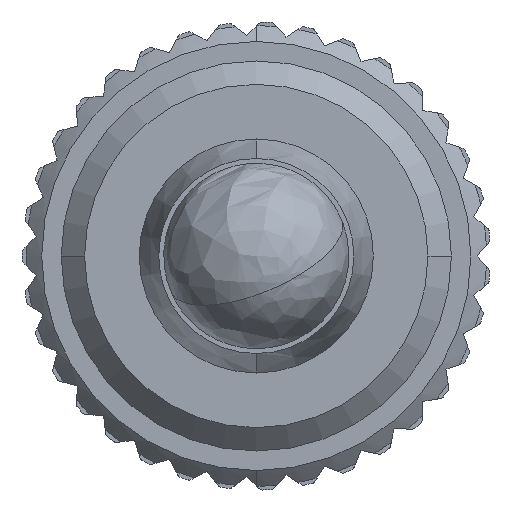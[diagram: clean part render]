
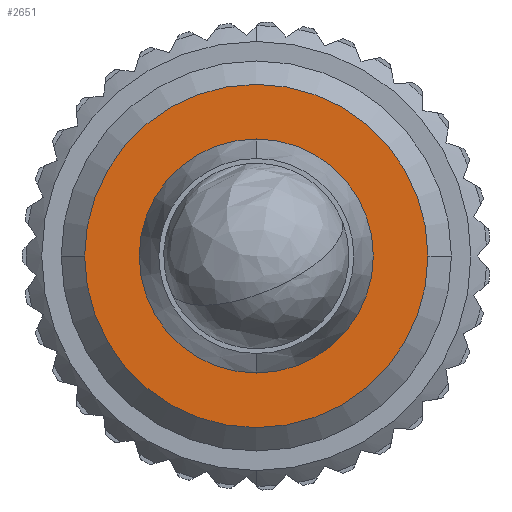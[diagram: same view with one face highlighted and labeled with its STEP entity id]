
A CAD part, left-side view. The second image highlights one B-rep face of the part: STEP entity #2651.
In plain terms, the highlighted planar face has unit normal (-1, 0, 0).
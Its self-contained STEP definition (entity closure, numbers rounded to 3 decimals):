
#2651 = ADVANCED_FACE ( 'NONE', ( #7937, #7936 ), #7935, .F. ) ;
#2652 = EDGE_LOOP ( 'NONE', ( #2653, #2654 ) ) ;
#2653 = ORIENTED_EDGE ( 'NONE', *, *, #3150, .F. ) ;
#2654 = ORIENTED_EDGE ( 'NONE', *, *, #2655, .F. ) ;
#2655 = EDGE_CURVE ( 'NONE', #3152, #3151, #7929, .T. ) ;
#2656 = EDGE_LOOP ( 'NONE', ( #2657, #2658 ) ) ;
#2657 = ORIENTED_EDGE ( 'NONE', *, *, #2667, .F. ) ;
#2658 = ORIENTED_EDGE ( 'NONE', *, *, #3099, .F. ) ;
#2667 = EDGE_CURVE ( 'NONE', #3100, #3097, #7982, .T. ) ;
#3097 = VERTEX_POINT ( 'NONE', #8762 ) ;
#3099 = EDGE_CURVE ( 'NONE', #3097, #3100, #8761, .T. ) ;
#3100 = VERTEX_POINT ( 'NONE', #8756 ) ;
#3150 = EDGE_CURVE ( 'NONE', #3151, #3152, #8810, .T. ) ;
#3151 = VERTEX_POINT ( 'NONE', #8863 ) ;
#3152 = VERTEX_POINT ( 'NONE', #8862 ) ;
#7926 = DIRECTION ( 'NONE',  ( 1., 0., 0. ) ) ;
#7927 = CARTESIAN_POINT ( 'NONE',  ( 8.082, -0.782, 0. ) ) ;
#7928 = AXIS2_PLACEMENT_3D ( 'NONE', #7927, #7926, #7989 ) ;
#7929 = CIRCLE ( 'NONE', #7928, 4.4 ) ;
#7931 = DIRECTION ( 'NONE',  ( 0., 0., -1. ) ) ;
#7932 = DIRECTION ( 'NONE',  ( 1., 0., 0. ) ) ;
#7933 = CARTESIAN_POINT ( 'NONE',  ( 8.082, -0.782, 0. ) ) ;
#7934 = AXIS2_PLACEMENT_3D ( 'NONE', #7933, #7932, #7931 ) ;
#7935 = PLANE ( 'NONE',  #7934 ) ;
#7936 = FACE_BOUND ( 'NONE', #2656, .T. ) ;
#7937 = FACE_OUTER_BOUND ( 'NONE', #2652, .T. ) ;
#7979 = DIRECTION ( 'NONE',  ( 0., 1., 0. ) ) ;
#7980 = DIRECTION ( 'NONE',  ( -1., 0., 0. ) ) ;
#7981 = AXIS2_PLACEMENT_3D ( 'NONE', #7987, #7980, #7979 ) ;
#7982 = CIRCLE ( 'NONE', #7981, 3. ) ;
#7987 = CARTESIAN_POINT ( 'NONE',  ( 8.082, -0.782, 0. ) ) ;
#7989 = DIRECTION ( 'NONE',  ( 0., 1., 0. ) ) ;
#8756 = CARTESIAN_POINT ( 'NONE',  ( 8.082, 2.218, 0. ) ) ;
#8757 = DIRECTION ( 'NONE',  ( 0., 1., 0. ) ) ;
#8758 = DIRECTION ( 'NONE',  ( -1., 0., 0. ) ) ;
#8759 = CARTESIAN_POINT ( 'NONE',  ( 8.082, -0.782, 0. ) ) ;
#8760 = AXIS2_PLACEMENT_3D ( 'NONE', #8759, #8758, #8757 ) ;
#8761 = CIRCLE ( 'NONE', #8760, 3. ) ;
#8762 = CARTESIAN_POINT ( 'NONE',  ( 8.082, -3.782, 0. ) ) ;
#8810 = CIRCLE ( 'NONE', #8867, 4.4 ) ;
#8862 = CARTESIAN_POINT ( 'NONE',  ( 8.082, -5.182, 0. ) ) ;
#8863 = CARTESIAN_POINT ( 'NONE',  ( 8.082, 3.618, 0. ) ) ;
#8864 = DIRECTION ( 'NONE',  ( 0., 1., 0. ) ) ;
#8865 = DIRECTION ( 'NONE',  ( 1., 0., 0. ) ) ;
#8866 = CARTESIAN_POINT ( 'NONE',  ( 8.082, -0.782, 0. ) ) ;
#8867 = AXIS2_PLACEMENT_3D ( 'NONE', #8866, #8865, #8864 ) ;
